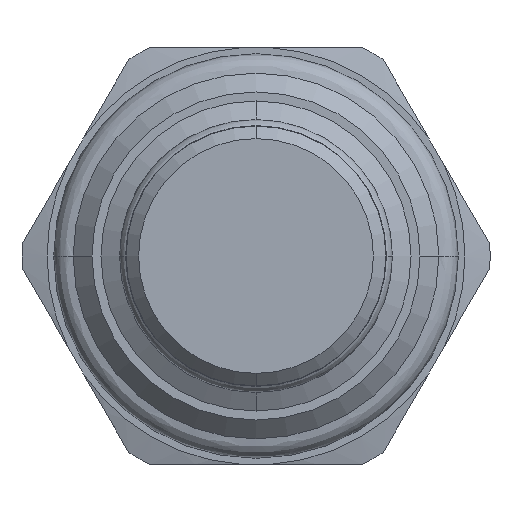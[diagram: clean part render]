
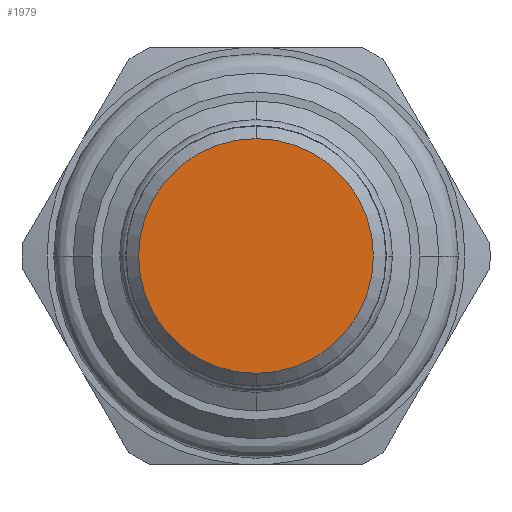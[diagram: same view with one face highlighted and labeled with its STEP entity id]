
A CAD part, front view. The second image highlights one B-rep face of the part: STEP entity #1979.
In plain terms, the highlighted planar face has unit normal (0, -1, 0).
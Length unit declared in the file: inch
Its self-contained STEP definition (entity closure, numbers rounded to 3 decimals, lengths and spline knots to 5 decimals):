
#776=CARTESIAN_POINT('',(0.,-1.253,0.));
#777=DIRECTION('',(0.,1.,0.));
#778=DIRECTION('',(0.,0.,-1.));
#779=AXIS2_PLACEMENT_3D('',#776,#777,#778);
#794=CARTESIAN_POINT('',(0.,-1.253,0.));
#795=DIRECTION('',(0.,1.,0.));
#796=DIRECTION('',(0.,0.,1.));
#797=AXIS2_PLACEMENT_3D('',#794,#795,#796);
#833=CARTESIAN_POINT('',(0.,-1.253,0.281));
#834=CARTESIAN_POINT('',(0.,-1.253,-0.281));
#835=VERTEX_POINT('',#833);
#836=VERTEX_POINT('',#834);
#1969=CARTESIAN_POINT('',(0.,-1.253,0.));
#1970=DIRECTION('',(0.,-1.,0.));
#1971=DIRECTION('',(0.,0.,1.));
#1972=AXIS2_PLACEMENT_3D('',#1969,#1970,#1971);
#1973=PLANE('',#1972);
#1974=ORIENTED_EDGE('',*,*,#1959,.T.);
#1976=ORIENTED_EDGE('',*,*,#1975,.T.);
#1977=EDGE_LOOP('',(#1974,#1976));
#1978=FACE_OUTER_BOUND('',#1977,.F.);
#1979=ADVANCED_FACE('',(#1978),#1973,.T.);
#780=CIRCLE('',#779,0.281);
#798=CIRCLE('',#797,0.281);
#1959=EDGE_CURVE('',#836,#835,#780,.T.);
#1975=EDGE_CURVE('',#835,#836,#798,.T.);
